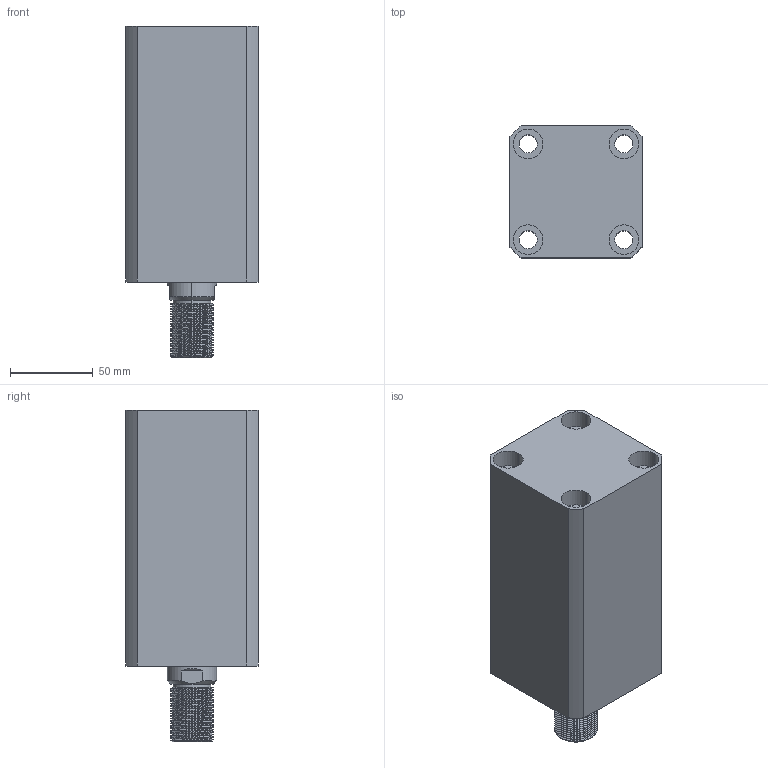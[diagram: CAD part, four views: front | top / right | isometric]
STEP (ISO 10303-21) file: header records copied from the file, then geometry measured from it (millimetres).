
FILE_DESCRIPTION (( 'STEP AP203' ), '1' );
FILE_NAME ('CHTB-SDMA50-95W.STEP', '2018-05-19T03:01:22', ( '' ), ( '' ), 'SwSTEP 2.0', 'SolidWorks 2015', '' );
FILE_SCHEMA (( 'CONFIG_CONTROL_DESIGN' ));
Length unit declared in the file: millimetre
Products named in the file (5): 活塞杆SDMA50-95W; M6; CHTB-SDMA50-95W; CHTM-SDMA50QG; 掛极SDMA50-95W
Assembly tree (5 placements, depth 2):
  CHTB-SDMA50-95W
    掛极SDMA50-95W
    活塞杆SDMA50-95W
    CHTM-SDMA50QG
    M6  x2
Bounding box: 80 x 80 x 201 mm (x, y, z)
Volume: 805384.8 mm3; surface area: 148708.4 mm2
Topology: 5 solids, 5 shells, 312 faces, 831 edges, 553 vertices
Faces by surface type: cylinder 179, plane 60, cone 29, bspline 28, torus 16
Entity records: 17949 total; most frequent: CARTESIAN_POINT 11067, ORIENTED_EDGE 1468, DIRECTION 1169, EDGE_CURVE 734, VERTEX_POINT 492, AXIS2_PLACEMENT_3D 472, EDGE_LOOP 320, FACE_OUTER_BOUND 277
